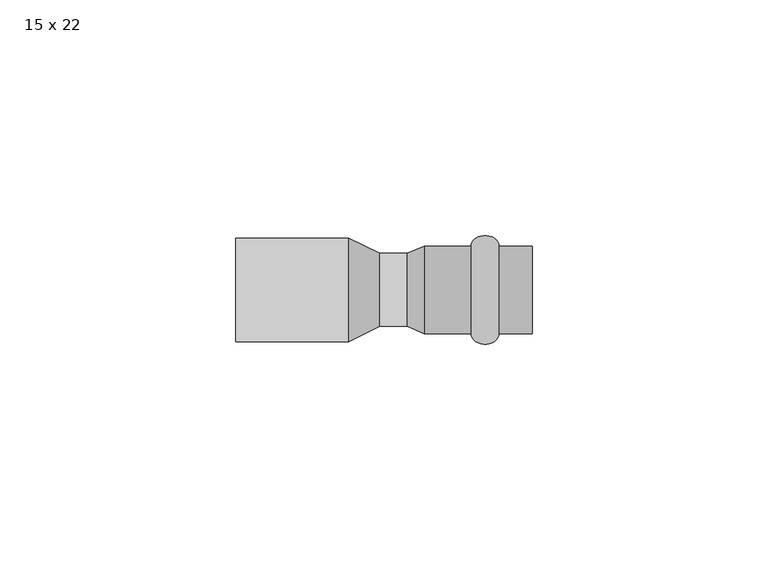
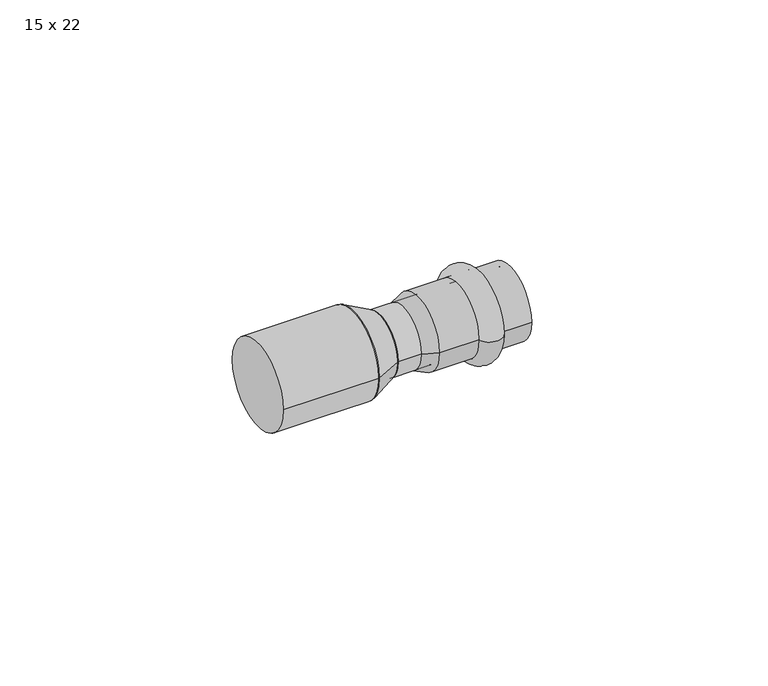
"""IFC4 building model written with IfcOpenShell, lengths in millimetres: pipe fitting geometry, РЕХАУ_Пресс Вставка переходная : 15 x 22."""

from ifc_helpers import new_model, si_unit, point, frame, origin, origin_2d, place, context, project, spatial, polyline, circle_curve, ellipse_curve, trimmed, segment, composite_curve, outline, extrude, source, transform, mapped, element, save
from ifc_brep_helpers import plane_surface, cylinder_surface, revolved_surface, advanced_brep


def pipe_fitting_15_x_22_c053387a(model_context):
    return source(origin(), model_context, "Body", "SolidModel", [
        advanced_brep(
        [(55.9, 9.25, 0.0), (55.9, -9.25, 0.0), (50.0, -9.25, 0.0), (50.0, 9.25, 0.0)],
        [
            (0, 1, circle_curve(frame((55.9, 0.0, 0.0), z_axis=(1.0, 0.0, 0.0), x_axis=(0.0, -1.0, 0.0)), 9.25)),
            (1, 2),
            (2, 3, circle_curve(frame((50.0, 0.0, 0.0), z_axis=(-1.0, 0.0, 0.0), x_axis=(0.0, -1.0, 0.0)), 9.25)),
            (3, 0),
            (1, 0, circle_curve(frame((55.9, 0.0, 0.0), z_axis=(1.0, 0.0, 0.0), x_axis=(0.0, -1.0, 0.0)), 9.25)),
            (3, 2, circle_curve(frame((50.0, 0.0, 0.0), z_axis=(-1.0, 0.0, 0.0), x_axis=(0.0, -1.0, 0.0)), 9.25)),
            (2, 1, ellipse_curve(frame((52.95, -9.25, 0.0), z_axis=(0.0, 0.0, 1.0), x_axis=(1.0, 0.0, 0.0)), 2.95, 2.3)),
            (0, 3, ellipse_curve(frame((52.95, 9.25, 0.0), z_axis=(0.0, 0.0, 1.0), x_axis=(1.0, 0.0, 0.0)), 2.95, 2.3)),
        ],
        [
            revolved_surface(polyline([(50.0, -9.25, 0.0), (55.9, -9.25, 0.0)]), (37.0, 0.0, 0.0), (-1.0, 0.0, 0.0)),
            revolved_surface(trimmed(ellipse_curve(frame((52.95, -9.25, 0.0), z_axis=(0.0, 0.0, -1.0), x_axis=(1.0, 0.0, 0.0)), 2.95, 2.3), [point((55.9, -9.25, 0.0))], [point((50.0, -9.25, 0.0))], True, "CARTESIAN"), (37.0, 0.0, 0.0), (-1.0, 0.0, 0.0)),
        ],
        [
            (0, [[1, 2, 3, 4]]),
            (0, [[5, -4, 6, -2]]),
            (1, [[-3, 7, -1, 8]]),
            (1, [[-6, -8, -5, -7]]),
        ],
    ),
        advanced_brep(
        [(36.4662215, 7.75, 0.0), (36.4662215, -7.75, 0.0), (40.0, -9.25, 0.0), (40.0, 9.25, 0.0), (63.0, 7.75, 0.0), (63.0, -7.75, 0.0), (63.0, 9.25, 0.0), (63.0, -9.25, 0.0)],
        [
            (0, 1, circle_curve(frame((36.4662215, 0.0, 0.0), z_axis=(1.0, 0.0, 0.0), x_axis=(0.0, -1.0, 0.0)), 7.75)),
            (1, 2),
            (2, 3, circle_curve(frame((40.0, 0.0, 0.0), z_axis=(-1.0, 0.0, 0.0), x_axis=(0.0, -1.0, 0.0)), 9.25)),
            (3, 0),
            (1, 0, circle_curve(frame((36.4662215, 0.0, 0.0), z_axis=(1.0, 0.0, 0.0), x_axis=(0.0, -1.0, 0.0)), 7.75)),
            (3, 2, circle_curve(frame((40.0, 0.0, 0.0), z_axis=(-1.0, 0.0, 0.0), x_axis=(0.0, -1.0, 0.0)), 9.25)),
            (4, 5, circle_curve(frame((63.0, 0.0, 0.0), z_axis=(1.0, 0.0, 0.0), x_axis=(0.0, -1.0, 0.0)), 7.75)),
            (5, 1),
            (0, 4),
            (5, 4, circle_curve(frame((63.0, 0.0, 0.0), z_axis=(1.0, 0.0, 0.0), x_axis=(0.0, -1.0, 0.0)), 7.75)),
            (6, 7, circle_curve(frame((63.0, 0.0, 0.0), z_axis=(1.0, 0.0, 0.0), x_axis=(0.0, -1.0, 0.0)), 9.25)),
            (7, 5),
            (4, 6),
            (7, 6, circle_curve(frame((63.0, 0.0, 0.0), z_axis=(1.0, 0.0, 0.0), x_axis=(0.0, -1.0, 0.0)), 9.25)),
            (2, 7),
            (6, 3),
        ],
        [
            revolved_surface(polyline([(40.0, -9.25, 0.0), (36.4662215, -7.75, 0.0)]), (37.0, 0.0, 0.0), (-1.0, 0.0, 0.0)),
            revolved_surface(polyline([(36.4662215, -7.75, 0.0), (63.0, -7.75, 0.0)]), (37.0, 0.0, 0.0), (-1.0, 0.0, 0.0)),
            plane_surface(frame((63.0, 0.0, 0.0), z_axis=(1.0, 0.0, 0.0), x_axis=(0.0, -1.0, 0.0))),
            cylinder_surface(frame((37.0, 0.0, 0.0), z_axis=(-1.0, 0.0, 0.0), x_axis=(0.0, -1.0, 0.0)), 9.25),
        ],
        [
            (0, [[1, 2, 3, 4]]),
            (0, [[5, -4, 6, -2]]),
            (1, [[7, 8, -1, 9]]),
            (1, [[10, -9, -5, -8]]),
            (2, [[11, 12, -7, 13]]),
            (2, [[14, -13, -10, -12]]),
            (3, [[-3, 15, -11, 16]]),
            (3, [[-6, -16, -14, -15]]),
        ],
    ),
        extrude(outline(composite_curve([segment(trimmed(circle_curve(origin_2d(), 7.75), [point((-7.75, 0.0))], [point((7.75, 0.0))], False, "CARTESIAN"), True, "CONTINUOUS"), segment(trimmed(circle_curve(origin_2d(), 7.75), [point((7.75, 0.0))], [point((-7.75, 0.0))], False, "CARTESIAN"), True, "CONTINUOUS")], self_intersect=False)), frame((30.55, 0.0, 0.0), z_axis=(1.0, 0.0, 0.0), x_axis=(0.0, 1.0, 0.0)), (0.0, 0.0, 1.0), 9.45),
        advanced_brep(
        [(30.55, -7.75, 0.0), (30.55, 7.75, 0.0), (24.0, -11.0, 0.0), (24.0, 11.0, 0.0)],
        [
            (0, 1, circle_curve(frame((30.55, 0.0, 0.0), z_axis=(1.0, 0.0, 0.0), x_axis=(0.0, -1.0, 0.0)), 7.75)),
            (1, 0, circle_curve(frame((30.55, 0.0, 0.0), z_axis=(1.0, 0.0, 0.0), x_axis=(0.0, 1.0, 0.0)), 7.75)),
            (2, 3, circle_curve(frame((24.0, 0.0, 0.0), z_axis=(-1.0, 0.0, 0.0), x_axis=(0.0, 1.0, 0.0)), 11.0)),
            (3, 2, circle_curve(frame((24.0, 0.0, 0.0), z_axis=(-1.0, 0.0, 0.0), x_axis=(0.0, -1.0, 0.0)), 11.0)),
            (3, 1),
            (0, 2),
        ],
        [
            plane_surface(frame((30.55, 0.0, 0.0), z_axis=(1.0, 0.0, 0.0), x_axis=(0.0, 0.0, -1.0))),
            plane_surface(frame((24.0, 0.0, 0.0), z_axis=(-1.0, 0.0, 0.0), x_axis=(0.0, 0.0, -1.0))),
            revolved_surface(polyline([(30.549999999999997, -7.750000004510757, 0.0), (24.0, -11.0, 0.0)]), (46.1692308, 0.0, 0.0), (-1.0, 0.0, 0.0)),
            revolved_surface(polyline([(30.549999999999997, 7.750000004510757, 0.0), (24.0, 11.0, 0.0)]), (46.1692308, 0.0, 0.0), (-1.0, 0.0, 0.0)),
        ],
        [
            (0, [[1, 2]]),
            (1, [[3, 4]]),
            (2, [[-4, 5, -1, 6]]),
            (3, [[-3, -6, -2, -5]]),
        ],
    ),
        extrude(outline(composite_curve([segment(trimmed(circle_curve(origin_2d(), 11.0), [point((-11.0, 0.0))], [point((11.0, 0.0))], False, "CARTESIAN"), True, "CONTINUOUS"), segment(trimmed(circle_curve(origin_2d(), 11.0), [point((11.0, 0.0))], [point((-11.0, 0.0))], False, "CARTESIAN"), True, "CONTINUOUS")], self_intersect=False)), frame((0.0, 0.0, 0.0), z_axis=(1.0, 0.0, 0.0), x_axis=(0.0, 1.0, 0.0)), (0.0, 0.0, 1.0), 24.0),
    ])


if __name__ == "__main__":
    model = new_model("IFC4")
    model_context = context("Model", 3, world=origin())
    ifc_project = project(units=[si_unit("LENGTHUNIT", "METRE", prefix="MILLI")], contexts=[model_context])
    site = spatial("IfcSite", under=ifc_project)
    building = spatial("IfcBuilding", under=site)
    placement = place(None, origin())
    pipe_fitting_15_x_22_shape = pipe_fitting_15_x_22_c053387a(model_context)
    element("IfcPipeFitting", 1, ObjectType="РЕХАУ_Пресс Вставка переходная : 15 x 22", at=placement, inside=building, context=model_context, shape_type="MappedRepresentation", body=[
        mapped(pipe_fitting_15_x_22_shape, transform((0.0, 0.0, 0.0), x_axis=(1.0, 0.0, 0.0), y_axis=(0.0, 1.0, 0.0), z_axis=(0.0, 0.0, 1.0))),
    ])
    save(model, "model.ifc")
